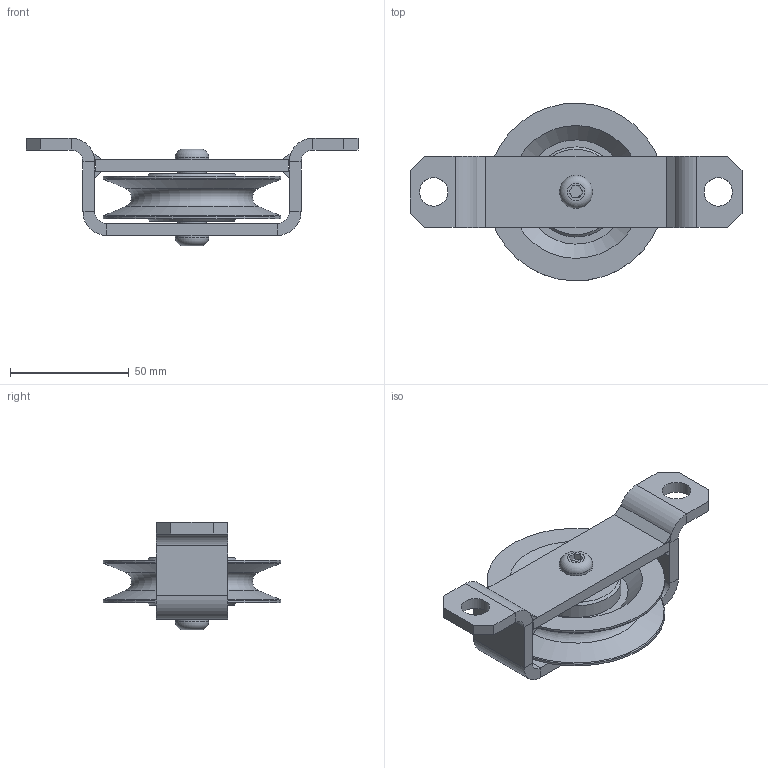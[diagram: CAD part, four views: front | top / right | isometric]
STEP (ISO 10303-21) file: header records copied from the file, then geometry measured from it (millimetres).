
FILE_DESCRIPTION(/* description */ ('Seilrolle ø75 Seitenbefestigung Gleitlager'),/* implementation_level */ '2;1');
FILE_NAME(/* name */ 'Z:\Workspace\03 Seilrollen\1.407 Seilrollen Seitenbefestigung Gleitlager\1.407.02 Seilrolle ø75 Seitenbefestigung Gleitlager\1.407.02 Seilrolle ø75 Seitenbefestigung Gleitlager.stp',/* time_stamp */ '2021-10-08T14:47:03+02:00',/* author */ ('cad-user'),/* organization */ (''),/* preprocessor_version */ 'ST-DEVELOPER v18',/* originating_system */ 'Autodesk Inventor 2020',/* authorisation */ '');
FILE_SCHEMA (('AUTOMOTIVE_DESIGN { 1 0 10303 214 3 1 1 }'));
Length unit declared in the file: millimetre
Products named in the file (10): 1.407.02 Seilrolle ø75 Seitenbefestigung Gleitlager; 1.407.02.00 Seitenbefestigung SR ø75; 1.407.02.00 Seitenbefestigung SR ø75_1; 1.407.02.01 Blech 1; 1.407.02.02 Blech 2; 1.401.02 Seilrolle ø75 Buchse komplett; 1.401.02 Seilrolle ø75 Buchse; Lagerbuchse 1220-DU; 1.405.02.02 Achse; ISO 7380 - M8 x 12
Assembly tree (10 placements, depth 3):
  1.407.02 Seilrolle ø75 Seitenbefestigung Gleitlager
    1.407.02.00 Seitenbefestigung SR ø75
      1.407.02.00 Seitenbefestigung SR ø75_1
      1.407.02.01 Blech 1
      1.407.02.02 Blech 2
    1.401.02 Seilrolle ø75 Buchse komplett
      1.401.02 Seilrolle ø75 Buchse
      Lagerbuchse 1220-DU
    1.405.02.02 Achse
    ISO 7380 - M8 x 12  x2
Bounding box: 140 x 74.97 x 45.4 mm (x, y, z)
Volume: 88207.8 mm3; surface area: 44002.3 mm2
Topology: 11 solids, 11 shells, 135 faces, 314 edges, 205 vertices
Faces by surface type: plane 86, cylinder 28, cone 14, torus 7
Full cylindrical faces by diameter (mm): 6.647 x1, 8 x2, 9 x2, 12 x3, 14 x3, 38 x2, 75 x2
Entity records: 3751 total; most frequent: DIRECTION 646, CARTESIAN_POINT 610, ORIENTED_EDGE 544, EDGE_CURVE 272, AXIS2_PLACEMENT_3D 245, VERTEX_POINT 176, LINE 156, VECTOR 156
